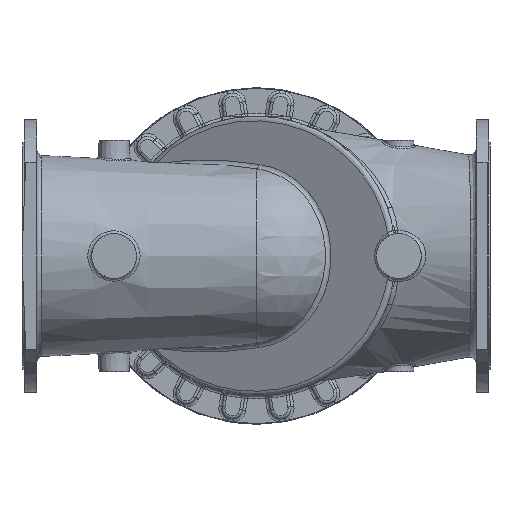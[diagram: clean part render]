
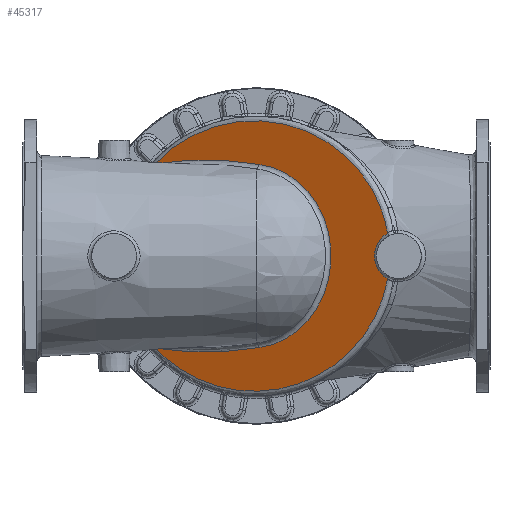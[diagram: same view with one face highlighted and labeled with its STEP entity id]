
A CAD part, front view. The second image highlights one B-rep face of the part: STEP entity #45317.
In plain terms, the highlighted planar face has unit normal (-0.479, -0.877, 0).
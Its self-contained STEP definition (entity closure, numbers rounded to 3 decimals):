
#36=ELLIPSE('',#48616,79.77,70.);
#38=ELLIPSE('',#48618,412.527,362.);
#39=ELLIPSE('',#48624,539.031,257.309);
#40=ELLIPSE('',#48626,539.031,257.309);
#41=ELLIPSE('',#48627,412.527,362.);
#2858=PLANE('',#48623);
#5311=FACE_OUTER_BOUND('',#8232,.T.);
#8232=EDGE_LOOP('',(#32195,#32196,#32197,#32198,#32199,#32200));
#14152=CIRCLE('',#48625,246.599);
#17998=VERTEX_POINT('',#79783);
#18001=VERTEX_POINT('',#79859);
#18002=VERTEX_POINT('',#80079);
#18006=VERTEX_POINT('',#80484);
#18007=VERTEX_POINT('',#80486);
#18008=VERTEX_POINT('',#80488);
#23290=EDGE_CURVE('',#17998,#18001,#36,.T.);
#23294=EDGE_CURVE('',#18002,#17998,#38,.T.);
#23302=EDGE_CURVE('',#18006,#18002,#39,.T.);
#23303=EDGE_CURVE('',#18007,#18006,#14152,.T.);
#23304=EDGE_CURVE('',#18008,#18007,#40,.T.);
#23305=EDGE_CURVE('',#18001,#18008,#41,.T.);
#32195=ORIENTED_EDGE('',*,*,#23290,.F.);
#32196=ORIENTED_EDGE('',*,*,#23294,.F.);
#32197=ORIENTED_EDGE('',*,*,#23302,.F.);
#32198=ORIENTED_EDGE('',*,*,#23303,.F.);
#32199=ORIENTED_EDGE('',*,*,#23304,.F.);
#32200=ORIENTED_EDGE('',*,*,#23305,.F.);
#45317=ADVANCED_FACE('',(#5311),#2858,.F.);
#48616=AXIS2_PLACEMENT_3D('',#79939,#56392,#56393);
#48618=AXIS2_PLACEMENT_3D('',#80086,#56396,#56397);
#48623=AXIS2_PLACEMENT_3D('',#80483,#56408,#56409);
#48624=AXIS2_PLACEMENT_3D('',#80485,#56410,#56411);
#48625=AXIS2_PLACEMENT_3D('',#80487,#56412,#56413);
#48626=AXIS2_PLACEMENT_3D('',#80489,#56414,#56415);
#48627=AXIS2_PLACEMENT_3D('',#80490,#56416,#56417);
#56392=DIRECTION('center_axis',(-0.48,-0.878,0.));
#56393=DIRECTION('ref_axis',(-0.878,0.48,0.));
#56396=DIRECTION('center_axis',(0.48,0.878,0.));
#56397=DIRECTION('ref_axis',(0.878,-0.48,0.));
#56408=DIRECTION('center_axis',(0.48,0.878,0.));
#56409=DIRECTION('ref_axis',(0.,0.,1.));
#56410=DIRECTION('center_axis',(-0.48,-0.878,0.));
#56411=DIRECTION('ref_axis',(-0.878,0.48,0.));
#56412=DIRECTION('center_axis',(-0.48,-0.878,0.));
#56413=DIRECTION('ref_axis',(0.878,-0.48,0.));
#56414=DIRECTION('center_axis',(-0.48,-0.878,0.));
#56415=DIRECTION('ref_axis',(-0.878,0.48,0.));
#56416=DIRECTION('center_axis',(0.48,0.878,0.));
#56417=DIRECTION('ref_axis',(0.878,-0.48,0.));
#79783=CARTESIAN_POINT('',(351.103,-231.523,60.798));
#79859=CARTESIAN_POINT('',(351.103,-231.523,-60.798));
#79939=CARTESIAN_POINT('Origin',(385.795,-250.481,0.));
#80079=CARTESIAN_POINT('',(-270.546,108.196,246.839));
#80086=CARTESIAN_POINT('Origin',(-5.755,-36.507,0.));
#80483=CARTESIAN_POINT('Origin',(-364.111,159.327,0.));
#80484=CARTESIAN_POINT('',(6.589,-43.253,245.169));
#80485=CARTESIAN_POINT('Origin',(-136.988,35.209,0.));
#80486=CARTESIAN_POINT('',(6.589,-43.253,-245.169));
#80487=CARTESIAN_POINT('Origin',(-16.686,-30.533,0.));
#80488=CARTESIAN_POINT('',(-270.546,108.196,-246.839));
#80489=CARTESIAN_POINT('Origin',(-136.988,35.209,0.));
#80490=CARTESIAN_POINT('Origin',(-5.755,-36.507,0.));
